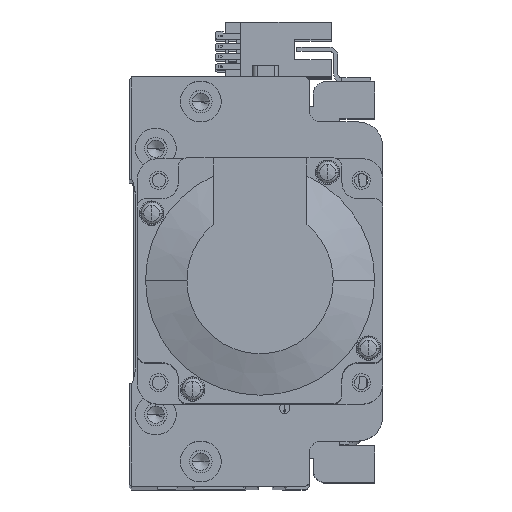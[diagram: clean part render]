
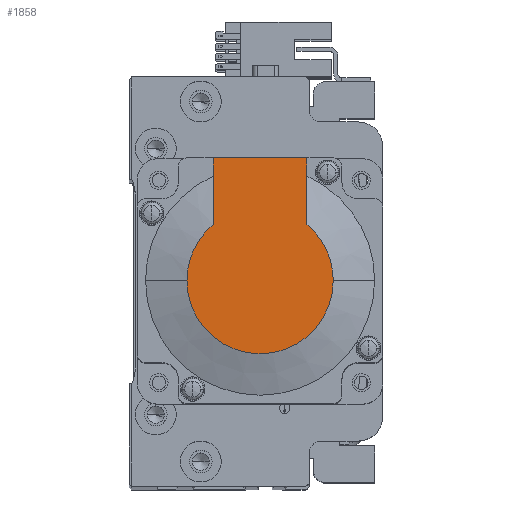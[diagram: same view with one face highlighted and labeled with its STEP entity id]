
A CAD part, top view. The second image highlights one B-rep face of the part: STEP entity #1858.
In plain terms, the highlighted planar face has unit normal (0, 0, 1) as drawn and (-1, 0, 0) by its records, which use the part's own axes.
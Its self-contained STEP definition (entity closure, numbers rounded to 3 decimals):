
#159 = CARTESIAN_POINT ( 'NONE',  ( -118.5, 30., -11.45 ) ) ;
#174 = CIRCLE ( 'NONE', #2135, 17.881 ) ;
#392 = CARTESIAN_POINT ( 'NONE',  ( -118.5, -8.941, -11.45 ) ) ;
#1000 = ORIENTED_EDGE ( 'NONE', *, *, #36870, .F. ) ;
#1858 = ADVANCED_FACE ( 'NONE', ( #39935 ), #28295, .T. ) ;
#2135 = AXIS2_PLACEMENT_3D ( 'NONE', #19063, #46535, #22993 ) ;
#2851 = DIRECTION ( 'NONE',  ( -1., 0., 0. ) ) ;
#10747 = ORIENTED_EDGE ( 'NONE', *, *, #43673, .T. ) ;
#11233 = LINE ( 'NONE', #13403, #41355 ) ;
#11566 = VERTEX_POINT ( 'NONE', #41037 ) ;
#13159 = ORIENTED_EDGE ( 'NONE', *, *, #45558, .T. ) ;
#13403 = CARTESIAN_POINT ( 'NONE',  ( -118.5, 0., 11.45 ) ) ;
#13524 = VERTEX_POINT ( 'NONE', #24746 ) ;
#15589 = EDGE_CURVE ( 'NONE', #31164, #22152, #11233, .T. ) ;
#17959 = EDGE_CURVE ( 'NONE', #48585, #13524, #39980, .T. ) ;
#18502 = CARTESIAN_POINT ( 'NONE',  ( -118.5, 30., 25. ) ) ;
#18698 = LINE ( 'NONE', #18502, #38355 ) ;
#18851 = LINE ( 'NONE', #392, #28038 ) ;
#19063 = CARTESIAN_POINT ( 'NONE',  ( -118.5, 0., 0. ) ) ;
#20768 = EDGE_CURVE ( 'NONE', #11566, #48585, #35471, .T. ) ;
#20788 = DIRECTION ( 'NONE',  ( -1., 0., 0. ) ) ;
#21857 = ORIENTED_EDGE ( 'NONE', *, *, #15589, .F. ) ;
#22152 = VERTEX_POINT ( 'NONE', #25720 ) ;
#22291 = AXIS2_PLACEMENT_3D ( 'NONE', #26386, #2851, #30326 ) ;
#22993 = DIRECTION ( 'NONE',  ( 0., 0., -1. ) ) ;
#23084 = EDGE_LOOP ( 'NONE', ( #10747, #43558, #35625, #13159, #21857, #1000 ) ) ;
#23949 = DIRECTION ( 'NONE',  ( 0., -1., 0. ) ) ;
#24746 = CARTESIAN_POINT ( 'NONE',  ( -118.5, 0., 17.881 ) ) ;
#24787 = CARTESIAN_POINT ( 'NONE',  ( -118.5, 30., 11.45 ) ) ;
#25720 = CARTESIAN_POINT ( 'NONE',  ( -118.5, 13.735, 11.45 ) ) ;
#26386 = CARTESIAN_POINT ( 'NONE',  ( -118.5, 0., 0. ) ) ;
#28038 = VECTOR ( 'NONE', #23949, 1000. ) ;
#28295 = PLANE ( 'NONE',  #41947 ) ;
#29968 = CARTESIAN_POINT ( 'NONE',  ( -118.5, -8.941, 0. ) ) ;
#30024 = DIRECTION ( 'NONE',  ( -1., 0., 0. ) ) ;
#30226 = CARTESIAN_POINT ( 'NONE',  ( -118.5, 0., -17.881 ) ) ;
#30326 = DIRECTION ( 'NONE',  ( 0., 0., -1. ) ) ;
#31164 = VERTEX_POINT ( 'NONE', #24787 ) ;
#33369 = DIRECTION ( 'NONE',  ( 0., -1., 0. ) ) ;
#35471 = CIRCLE ( 'NONE', #22291, 17.881 ) ;
#35625 = ORIENTED_EDGE ( 'NONE', *, *, #17959, .T. ) ;
#36870 = EDGE_CURVE ( 'NONE', #46979, #31164, #18698, .T. ) ;
#38355 = VECTOR ( 'NONE', #41803, 1000. ) ;
#38977 = AXIS2_PLACEMENT_3D ( 'NONE', #44346, #20788, #48269 ) ;
#39935 = FACE_OUTER_BOUND ( 'NONE', #23084, .T. ) ;
#39980 = CIRCLE ( 'NONE', #38977, 17.881 ) ;
#41037 = CARTESIAN_POINT ( 'NONE',  ( -118.5, 13.735, -11.45 ) ) ;
#41355 = VECTOR ( 'NONE', #33369, 1000. ) ;
#41463 = DIRECTION ( 'NONE',  ( 0., 0., 1. ) ) ;
#41803 = DIRECTION ( 'NONE',  ( 0., 0., 1. ) ) ;
#41947 = AXIS2_PLACEMENT_3D ( 'NONE', #29968, #30024, #41463 ) ;
#43558 = ORIENTED_EDGE ( 'NONE', *, *, #20768, .T. ) ;
#43673 = EDGE_CURVE ( 'NONE', #46979, #11566, #18851, .T. ) ;
#44346 = CARTESIAN_POINT ( 'NONE',  ( -118.5, 0., 0. ) ) ;
#45558 = EDGE_CURVE ( 'NONE', #13524, #22152, #174, .T. ) ;
#46535 = DIRECTION ( 'NONE',  ( -1., 0., 0. ) ) ;
#46979 = VERTEX_POINT ( 'NONE', #159 ) ;
#48269 = DIRECTION ( 'NONE',  ( 0., 0., -1. ) ) ;
#48585 = VERTEX_POINT ( 'NONE', #30226 ) ;
